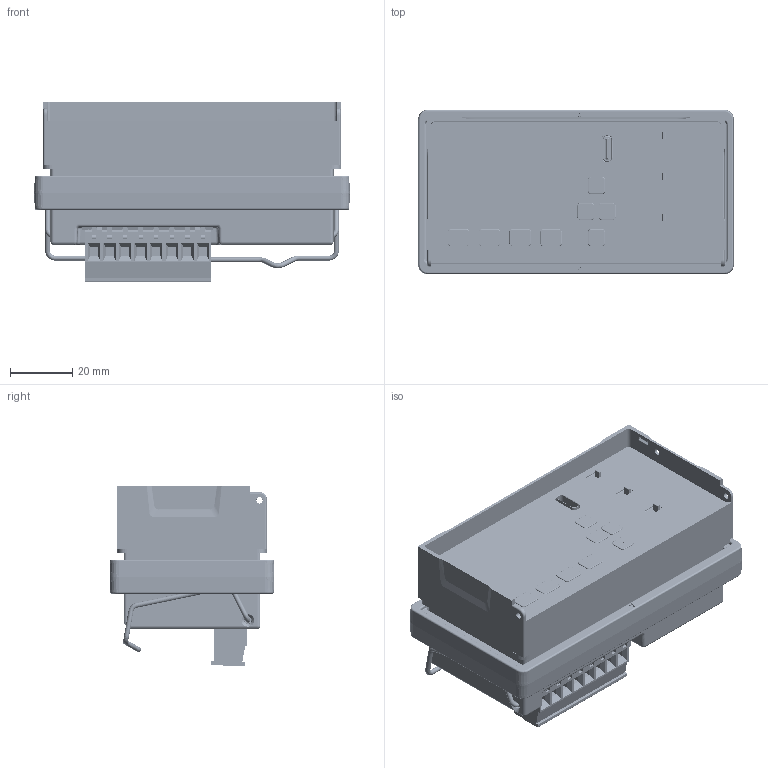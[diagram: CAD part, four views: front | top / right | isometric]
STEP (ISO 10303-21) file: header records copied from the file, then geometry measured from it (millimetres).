
FILE_DESCRIPTION (( 'STEP AP214' ), '1' );
FILE_NAME ('DiggiMEC-B without Hatch.STEP', '2024-09-02T09:49:04', ( '' ), ( '' ), 'SwSTEP 2.0', 'SolidWorks 2023', '' );
FILE_SCHEMA (( 'AUTOMOTIVE_DESIGN' ));
Length unit declared in the file: millimetre
Products named in the file (1): DiggiMEC-B without Hatch
Bounding box: 101.5 x 53 x 57.8 mm (x, y, z)
Surface area: 104280.8 mm2 (no closed solid volume)
Topology: 0 solids, 84 shells, 7567 faces, 20588 edges, 13306 vertices
Faces by surface type: plane 5059, cylinder 1610, bspline 559, cone 179, torus 126, sphere 34
Full cylindrical faces by diameter (mm): 0.217 x1, 0.45 x2, 0.7 x6, 0.94 x6, 1 x3, 1.1 x9, 1.14 x1, 1.45 x8, 1.5 x9, 1.52 x1, 1.6 x15, 2 x5, 2.03 x6, 2.76 x8, 3.5 x4, 3.7 x8, 3.85 x8, 4 x8
Entity records: 333275 total; most frequent: CARTESIAN_POINT 67980, ORIENTED_EDGE 40280, DIRECTION 34483, EDGE_CURVE 20173, VECTOR 14803, LINE 14803, VERTEX_POINT 13208, AXIS2_PLACEMENT_3D 9840
